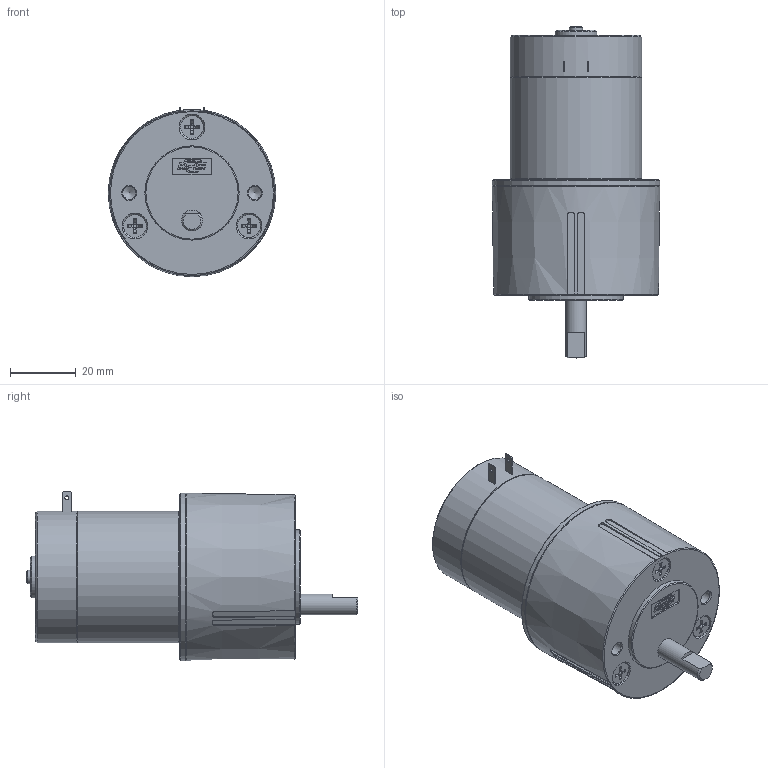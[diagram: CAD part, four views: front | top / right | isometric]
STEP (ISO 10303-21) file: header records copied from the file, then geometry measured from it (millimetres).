
FILE_DESCRIPTION((''),'2;1');
FILE_NAME('Z:\4_DC\새 폴더\RS4 SERIES\RS42ㅁㅁTㅁ.stp','2015-03-25T17:12:40',('kdhkdh'),(''),'Autodesk Inventor 2013','Autodesk Inventor 2013','');
FILE_SCHEMA(('AUTOMOTIVE_DESIGN { 1 0 10303 214 1 1 1 1 }'));
Length unit declared in the file: millimetre
Products named in the file (1): 부품2
Bounding box: 50.8 x 100.69 x 51.4 mm (x, y, z)
Volume: 126057.1 mm3; surface area: 16558.7 mm2
Topology: 1 solids, 3 shells, 367 faces, 971 edges, 637 vertices
Faces by surface type: plane 199, cylinder 101, cone 45, torus 22
Full cylindrical faces by diameter (mm): 1.2 x2, 2.8 x4, 3.5 x2, 3.7 x2, 3.962 x2, 4 x1, 6.34 x1, 6.9 x5, 7.8 x3, 12.7 x1, 28.575 x1, 40 x2, 50.8 x1
Entity records: 11662 total; most frequent: CARTESIAN_POINT 2925, ORIENTED_EDGE 1790, DIRECTION 1724, EDGE_CURVE 895, AXIS2_PLACEMENT_3D 633, VERTEX_POINT 614, EDGE_LOOP 458, VECTOR 458
